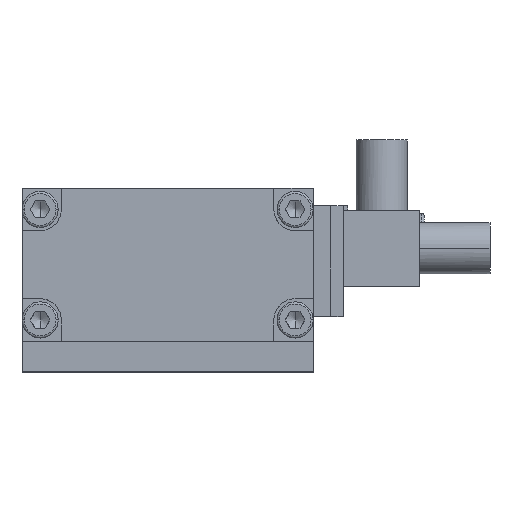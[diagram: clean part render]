
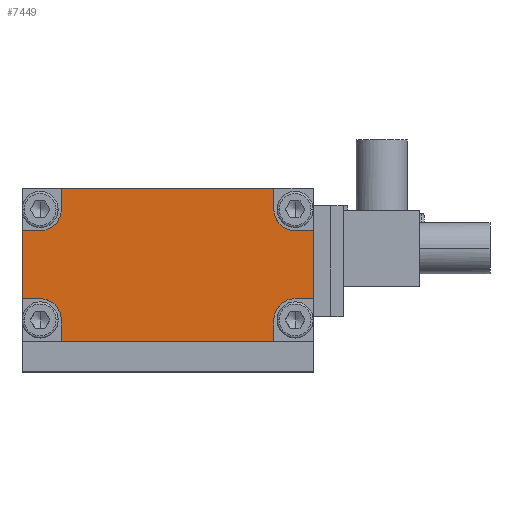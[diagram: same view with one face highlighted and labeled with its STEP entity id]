
A CAD part, top view. The second image highlights one B-rep face of the part: STEP entity #7449.
In plain terms, the highlighted planar face has unit normal (0, 0, 1).
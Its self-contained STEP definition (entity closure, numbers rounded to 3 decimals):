
#6592=CARTESIAN_POINT('Vertex',(-0.1,-26.,147.)) ;
#6595=CARTESIAN_POINT('Line Origine',(-0.1,-18.,147.)) ;
#6599=CARTESIAN_POINT('Vertex',(-0.1,-10.,147.)) ;
#7111=CARTESIAN_POINT('Vertex',(9.15,0.,147.)) ;
#7114=CARTESIAN_POINT('Line Origine',(34.15,0.,147.)) ;
#7118=CARTESIAN_POINT('Vertex',(59.15,0.,147.)) ;
#7160=CARTESIAN_POINT('Vertex',(9.15,-36.,147.)) ;
#7188=CARTESIAN_POINT('Vertex',(59.15,-36.,147.)) ;
#7191=CARTESIAN_POINT('Line Origine',(34.15,-36.,147.)) ;
#7333=CARTESIAN_POINT('Vertex',(4.15,-26.,147.)) ;
#7336=CARTESIAN_POINT('Line Origine',(2.025,-26.,147.)) ;
#7348=CARTESIAN_POINT('Axis2P3D Location',(34.15,-18.,147.)) ;
#7353=CARTESIAN_POINT('Line Origine',(9.15,-2.5,147.)) ;
#7357=CARTESIAN_POINT('Vertex',(9.15,-5.,147.)) ;
#7360=CARTESIAN_POINT('Axis2P3D Location',(4.15,-5.,147.)) ;
#7364=CARTESIAN_POINT('Vertex',(4.15,-10.,147.)) ;
#7367=CARTESIAN_POINT('Line Origine',(2.025,-10.,147.)) ;
#7372=CARTESIAN_POINT('Axis2P3D Location',(4.15,-31.,147.)) ;
#7376=CARTESIAN_POINT('Vertex',(9.15,-31.,147.)) ;
#7379=CARTESIAN_POINT('Line Origine',(9.15,-33.5,147.)) ;
#7384=CARTESIAN_POINT('Line Origine',(59.15,-33.5,147.)) ;
#7388=CARTESIAN_POINT('Vertex',(59.15,-31.,147.)) ;
#7391=CARTESIAN_POINT('Axis2P3D Location',(64.15,-31.,147.)) ;
#7395=CARTESIAN_POINT('Vertex',(64.15,-26.,147.)) ;
#7398=CARTESIAN_POINT('Line Origine',(66.275,-26.,147.)) ;
#7402=CARTESIAN_POINT('Vertex',(68.4,-26.,147.)) ;
#7405=CARTESIAN_POINT('Line Origine',(68.4,-18.,147.)) ;
#7409=CARTESIAN_POINT('Vertex',(68.4,-10.,147.)) ;
#7412=CARTESIAN_POINT('Line Origine',(66.275,-10.,147.)) ;
#7416=CARTESIAN_POINT('Vertex',(64.15,-10.,147.)) ;
#7419=CARTESIAN_POINT('Axis2P3D Location',(64.15,-5.,147.)) ;
#7423=CARTESIAN_POINT('Vertex',(59.15,-5.,147.)) ;
#7426=CARTESIAN_POINT('Line Origine',(59.15,-2.5,147.)) ;
#6596=DIRECTION('Vector Direction',(0.,-1.,0.)) ;
#7115=DIRECTION('Vector Direction',(-1.,0.,0.)) ;
#7192=DIRECTION('Vector Direction',(1.,0.,0.)) ;
#7337=DIRECTION('Vector Direction',(1.,0.,0.)) ;
#7349=DIRECTION('Axis2P3D Direction',(0.,0.,-1.)) ;
#7350=DIRECTION('Axis2P3D XDirection',(1.,0.,0.)) ;
#7354=DIRECTION('Vector Direction',(0.,-1.,0.)) ;
#7361=DIRECTION('Axis2P3D Direction',(0.,0.,-1.)) ;
#7368=DIRECTION('Vector Direction',(-1.,0.,0.)) ;
#7373=DIRECTION('Axis2P3D Direction',(0.,0.,-1.)) ;
#7380=DIRECTION('Vector Direction',(0.,-1.,0.)) ;
#7385=DIRECTION('Vector Direction',(0.,1.,0.)) ;
#7392=DIRECTION('Axis2P3D Direction',(0.,0.,-1.)) ;
#7399=DIRECTION('Vector Direction',(1.,0.,0.)) ;
#7406=DIRECTION('Vector Direction',(0.,1.,0.)) ;
#7413=DIRECTION('Vector Direction',(-1.,0.,0.)) ;
#7420=DIRECTION('Axis2P3D Direction',(0.,0.,-1.)) ;
#7427=DIRECTION('Vector Direction',(0.,1.,0.)) ;
#7351=AXIS2_PLACEMENT_3D('Plane Axis2P3D',#7348,#7349,#7350) ;
#7362=AXIS2_PLACEMENT_3D('Circle Axis2P3D',#7360,#7361,$) ;
#7374=AXIS2_PLACEMENT_3D('Circle Axis2P3D',#7372,#7373,$) ;
#7393=AXIS2_PLACEMENT_3D('Circle Axis2P3D',#7391,#7392,$) ;
#7421=AXIS2_PLACEMENT_3D('Circle Axis2P3D',#7419,#7420,$) ;
#7432=ORIENTED_EDGE('',*,*,#7359,.T.) ;
#7433=ORIENTED_EDGE('',*,*,#7366,.T.) ;
#7434=ORIENTED_EDGE('',*,*,#7371,.T.) ;
#7435=ORIENTED_EDGE('',*,*,#6601,.T.) ;
#7436=ORIENTED_EDGE('',*,*,#7340,.T.) ;
#7437=ORIENTED_EDGE('',*,*,#7378,.T.) ;
#7438=ORIENTED_EDGE('',*,*,#7383,.T.) ;
#7439=ORIENTED_EDGE('',*,*,#7195,.T.) ;
#7440=ORIENTED_EDGE('',*,*,#7390,.T.) ;
#7441=ORIENTED_EDGE('',*,*,#7397,.T.) ;
#7442=ORIENTED_EDGE('',*,*,#7404,.T.) ;
#7443=ORIENTED_EDGE('',*,*,#7411,.T.) ;
#7444=ORIENTED_EDGE('',*,*,#7418,.T.) ;
#7445=ORIENTED_EDGE('',*,*,#7425,.T.) ;
#7446=ORIENTED_EDGE('',*,*,#7430,.T.) ;
#7447=ORIENTED_EDGE('',*,*,#7120,.T.) ;
#6597=VECTOR('Line Direction',#6596,1.) ;
#7116=VECTOR('Line Direction',#7115,1.) ;
#7193=VECTOR('Line Direction',#7192,1.) ;
#7338=VECTOR('Line Direction',#7337,1.) ;
#7355=VECTOR('Line Direction',#7354,1.) ;
#7369=VECTOR('Line Direction',#7368,1.) ;
#7381=VECTOR('Line Direction',#7380,1.) ;
#7386=VECTOR('Line Direction',#7385,1.) ;
#7400=VECTOR('Line Direction',#7399,1.) ;
#7407=VECTOR('Line Direction',#7406,1.) ;
#7414=VECTOR('Line Direction',#7413,1.) ;
#7428=VECTOR('Line Direction',#7427,1.) ;
#7449=ADVANCED_FACE('253587 Deckel SZKD 40 (18395020)_1\\Volumenk\X2\00F6\X0\rper1',(#7448),#7352,.F.) ;
#7363=CIRCLE('generated circle',#7362,5.) ;
#7375=CIRCLE('generated circle',#7374,5.) ;
#7394=CIRCLE('generated circle',#7393,5.) ;
#7422=CIRCLE('generated circle',#7421,5.) ;
#6601=EDGE_CURVE('',#6600,#6593,#6598,.T.) ;
#7120=EDGE_CURVE('',#7119,#7112,#7117,.T.) ;
#7195=EDGE_CURVE('',#7161,#7189,#7194,.T.) ;
#7340=EDGE_CURVE('',#6593,#7334,#7339,.T.) ;
#7359=EDGE_CURVE('',#7112,#7358,#7356,.T.) ;
#7366=EDGE_CURVE('',#7358,#7365,#7363,.T.) ;
#7371=EDGE_CURVE('',#7365,#6600,#7370,.T.) ;
#7378=EDGE_CURVE('',#7334,#7377,#7375,.T.) ;
#7383=EDGE_CURVE('',#7377,#7161,#7382,.T.) ;
#7390=EDGE_CURVE('',#7189,#7389,#7387,.T.) ;
#7397=EDGE_CURVE('',#7389,#7396,#7394,.T.) ;
#7404=EDGE_CURVE('',#7396,#7403,#7401,.T.) ;
#7411=EDGE_CURVE('',#7403,#7410,#7408,.T.) ;
#7418=EDGE_CURVE('',#7410,#7417,#7415,.T.) ;
#7425=EDGE_CURVE('',#7417,#7424,#7422,.T.) ;
#7430=EDGE_CURVE('',#7424,#7119,#7429,.T.) ;
#7431=EDGE_LOOP('',(#7432,#7433,#7434,#7435,#7436,#7437,#7438,#7439,#7440,#7441,#7442,#7443,#7444,#7445,#7446,#7447)) ;
#7448=FACE_OUTER_BOUND('',#7431,.T.) ;
#6598=LINE('Line',#6595,#6597) ;
#7117=LINE('Line',#7114,#7116) ;
#7194=LINE('Line',#7191,#7193) ;
#7339=LINE('Line',#7336,#7338) ;
#7356=LINE('Line',#7353,#7355) ;
#7370=LINE('Line',#7367,#7369) ;
#7382=LINE('Line',#7379,#7381) ;
#7387=LINE('Line',#7384,#7386) ;
#7401=LINE('Line',#7398,#7400) ;
#7408=LINE('Line',#7405,#7407) ;
#7415=LINE('Line',#7412,#7414) ;
#7429=LINE('Line',#7426,#7428) ;
#7352=PLANE('Plane',#7351) ;
#6593=VERTEX_POINT('',#6592) ;
#6600=VERTEX_POINT('',#6599) ;
#7112=VERTEX_POINT('',#7111) ;
#7119=VERTEX_POINT('',#7118) ;
#7161=VERTEX_POINT('',#7160) ;
#7189=VERTEX_POINT('',#7188) ;
#7334=VERTEX_POINT('',#7333) ;
#7358=VERTEX_POINT('',#7357) ;
#7365=VERTEX_POINT('',#7364) ;
#7377=VERTEX_POINT('',#7376) ;
#7389=VERTEX_POINT('',#7388) ;
#7396=VERTEX_POINT('',#7395) ;
#7403=VERTEX_POINT('',#7402) ;
#7410=VERTEX_POINT('',#7409) ;
#7417=VERTEX_POINT('',#7416) ;
#7424=VERTEX_POINT('',#7423) ;
